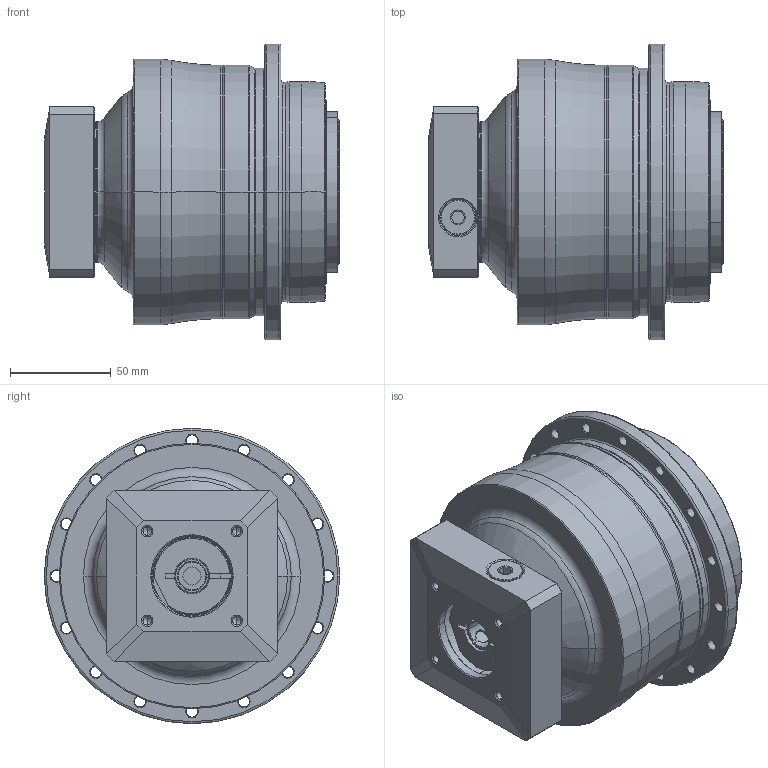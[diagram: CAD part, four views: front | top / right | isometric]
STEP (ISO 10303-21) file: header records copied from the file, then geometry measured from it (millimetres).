
FILE_DESCRIPTION((''),'2;1');
FILE_NAME('AH110_2ST_14-P0409310101_ASM','2016-08-04T',('d01943'),(''),'PRO/ENGINEER BY PARAMETRIC TECHNOLOGY CORPORATION, 2008410','PRO/ENGINEER BY PARAMETRIC TECHNOLOGY CORPORATION, 2008410','');
FILE_SCHEMA(('CONFIG_CONTROL_DESIGN'));
Length unit declared in the file: millimetre
Products named in the file (8): P0278400003; P0359400002; P1317400001; P0409310101; P0503300006; P0912301001; 21711412017; AH110_2ST_14-P0409310101_ASM
Assembly tree (7 placements, depth 2):
  AH110_2ST_14-P0409310101_ASM
    P0278400003
    P0359400002
    P1317400001
    P0409310101
    P0503300006
    P0912301001
    21711412017
Bounding box: 146.5 x 147 x 147 mm (x, y, z)
Volume: 1366652.3 mm3; surface area: 183027.4 mm2
Topology: 8 solids, 8 shells, 598 faces, 1361 edges, 794 vertices
Faces by surface type: cylinder 226, cone 192, plane 98, torus 66, bspline 16
Entity records: 20994 total; most frequent: CARTESIAN_POINT 7296, DIRECTION 3097, ORIENTED_EDGE 2614, EDGE_CURVE 1307, AXIS2_PLACEMENT_3D 1304, VERTEX_POINT 794, EDGE_LOOP 715, CIRCLE 707
